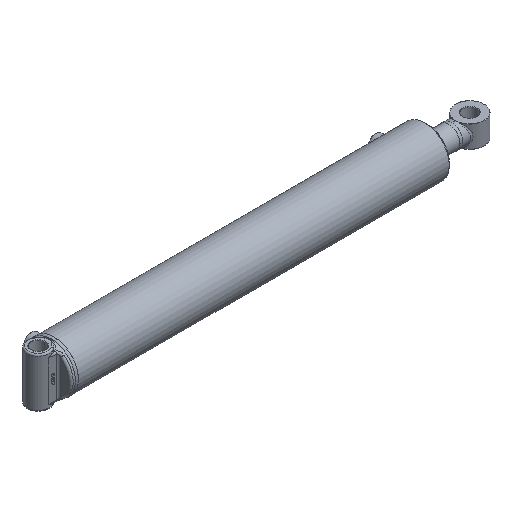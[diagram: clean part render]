
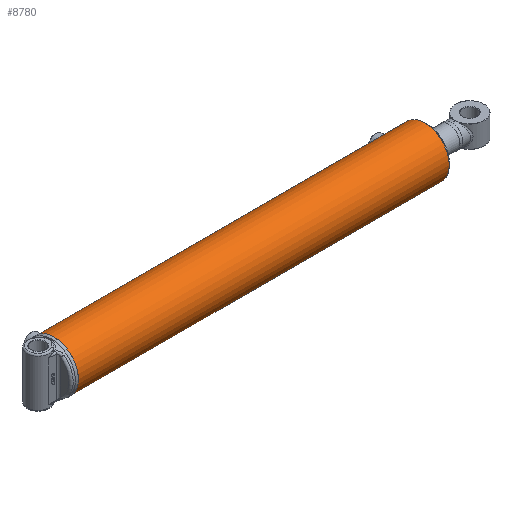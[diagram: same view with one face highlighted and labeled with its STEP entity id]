
A CAD part, isometric view. The second image highlights one B-rep face of the part: STEP entity #8780.
In plain terms, the highlighted cylindrical face has radius 56.356 mm (diameter 112.712 mm), a full revolution.
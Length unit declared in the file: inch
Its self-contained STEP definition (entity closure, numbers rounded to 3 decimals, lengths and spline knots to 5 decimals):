
#808=B_SPLINE_CURVE_WITH_KNOTS('',3,(#13133,#13134,#13135,#13136,#13137,
#13138,#13139,#13140,#13141,#13142),.UNSPECIFIED.,.F.,.F.,(4,2,2,2,4),(0.,
0.23942,0.47883,0.71824,0.95766),
 .UNSPECIFIED.);
#809=B_SPLINE_CURVE_WITH_KNOTS('',3,(#13143,#13144,#13145,#13146,#13147,
#13148,#13149,#13150,#13151,#13152,#13153,#13154,#13155,#13156,#13157,#13158,
#13159,#13160,#13161,#13162,#13163,#13164,#13165,#13166,#13167,#13168),
 .UNSPECIFIED.,.F.,.F.,(4,2,2,2,2,2,2,2,2,2,2,2,4),(0.95766,1.19707,
1.43649,1.6759,1.91532,2.15473,2.39415,
2.63356,2.87297,3.11239,3.3518,3.59122,
3.83063),.UNSPECIFIED.);
#810=B_SPLINE_CURVE_WITH_KNOTS('',3,(#13173,#13174,#13175,#13176,#13177,
#13178,#13179,#13180,#13181,#13182),.UNSPECIFIED.,.F.,.F.,(4,2,2,2,4),(0.,
0.23942,0.47883,0.71824,0.95766),
 .UNSPECIFIED.);
#811=B_SPLINE_CURVE_WITH_KNOTS('',3,(#13183,#13184,#13185,#13186,#13187,
#13188,#13189,#13190,#13191,#13192,#13193,#13194,#13195,#13196,#13197,#13198,
#13199,#13200,#13201,#13202,#13203,#13204,#13205,#13206,#13207,#13208),
 .UNSPECIFIED.,.F.,.F.,(4,2,2,2,2,2,2,2,2,2,2,2,4),(0.95766,1.19707,
1.43649,1.6759,1.91532,2.15473,2.39415,
2.63356,2.87297,3.11239,3.3518,3.59122,
3.83063),.UNSPECIFIED.);
#1096=FACE_BOUND('',#2595,.T.);
#1097=FACE_BOUND('',#2596,.T.);
#1352=LINE('',#13244,#1693);
#1693=VECTOR('',#10661,2.21875);
#2031=CYLINDRICAL_SURFACE('',#9525,2.21875);
#2119=FACE_OUTER_BOUND('',#2594,.T.);
#2594=EDGE_LOOP('',(#6139,#6140,#6141,#6142,#6143,#6144));
#2595=EDGE_LOOP('',(#6145,#6146));
#2596=EDGE_LOOP('',(#6147,#6148));
#3157=CIRCLE('',#9522,2.21875);
#3159=CIRCLE('',#9524,2.21875);
#3160=CIRCLE('',#9526,2.21875);
#3161=CIRCLE('',#9527,2.21875);
#3801=VERTEX_POINT('',#13130);
#3802=VERTEX_POINT('',#13132);
#3803=VERTEX_POINT('',#13170);
#3804=VERTEX_POINT('',#13172);
#3815=VERTEX_POINT('',#13237);
#3816=VERTEX_POINT('',#13238);
#3817=VERTEX_POINT('',#13243);
#3818=VERTEX_POINT('',#13245);
#4736=EDGE_CURVE('',#3802,#3801,#808,.T.);
#4737=EDGE_CURVE('',#3801,#3802,#809,.T.);
#4739=EDGE_CURVE('',#3804,#3803,#810,.T.);
#4740=EDGE_CURVE('',#3803,#3804,#811,.T.);
#4754=EDGE_CURVE('',#3815,#3816,#3157,.T.);
#4756=EDGE_CURVE('',#3816,#3815,#3159,.T.);
#4757=EDGE_CURVE('',#3815,#3817,#1352,.T.);
#4758=EDGE_CURVE('',#3818,#3817,#3160,.T.);
#4759=EDGE_CURVE('',#3817,#3818,#3161,.T.);
#6139=ORIENTED_EDGE('',*,*,#4754,.F.);
#6140=ORIENTED_EDGE('',*,*,#4757,.T.);
#6141=ORIENTED_EDGE('',*,*,#4758,.F.);
#6142=ORIENTED_EDGE('',*,*,#4759,.F.);
#6143=ORIENTED_EDGE('',*,*,#4757,.F.);
#6144=ORIENTED_EDGE('',*,*,#4756,.F.);
#6145=ORIENTED_EDGE('',*,*,#4736,.T.);
#6146=ORIENTED_EDGE('',*,*,#4737,.T.);
#6147=ORIENTED_EDGE('',*,*,#4739,.T.);
#6148=ORIENTED_EDGE('',*,*,#4740,.T.);
#8780=ADVANCED_FACE('',(#2119,#1096,#1097),#2031,.T.);
#9522=AXIS2_PLACEMENT_3D('',#13239,#10653,#10654);
#9524=AXIS2_PLACEMENT_3D('',#13241,#10657,#10658);
#9525=AXIS2_PLACEMENT_3D('',#13242,#10659,#10660);
#9526=AXIS2_PLACEMENT_3D('',#13246,#10662,#10663);
#9527=AXIS2_PLACEMENT_3D('',#13247,#10664,#10665);
#10653=DIRECTION('center_axis',(1.,0.,0.));
#10654=DIRECTION('ref_axis',(0.,-1.,0.));
#10657=DIRECTION('center_axis',(1.,0.,0.));
#10658=DIRECTION('ref_axis',(0.,-1.,0.));
#10659=DIRECTION('center_axis',(1.,0.,0.));
#10660=DIRECTION('ref_axis',(0.,-1.,0.));
#10661=DIRECTION('',(-1.,0.,0.));
#10662=DIRECTION('center_axis',(-1.,0.,0.));
#10663=DIRECTION('ref_axis',(0.,-1.,0.));
#10664=DIRECTION('center_axis',(-1.,0.,0.));
#10665=DIRECTION('ref_axis',(0.,-1.,0.));
#13130=CARTESIAN_POINT('',(0.75,0.,2.21875));
#13132=CARTESIAN_POINT('',(1.,-0.25,2.20462));
#13133=CARTESIAN_POINT('Ctrl Pts',(1.,-0.25,2.20462));
#13134=CARTESIAN_POINT('Ctrl Pts',(0.96858,-0.25,2.20462));
#13135=CARTESIAN_POINT('Ctrl Pts',(0.93509,-0.24372,
2.20536));
#13136=CARTESIAN_POINT('Ctrl Pts',(0.8735,-0.21819,
2.20803));
#13137=CARTESIAN_POINT('Ctrl Pts',(0.8454,-0.19896,
2.20992));
#13138=CARTESIAN_POINT('Ctrl Pts',(0.80104,-0.1546,
2.21347));
#13139=CARTESIAN_POINT('Ctrl Pts',(0.78181,-0.1265,
2.21536));
#13140=CARTESIAN_POINT('Ctrl Pts',(0.75628,-0.06491,
2.21801));
#13141=CARTESIAN_POINT('Ctrl Pts',(0.75,-0.03142,2.21875));
#13142=CARTESIAN_POINT('Ctrl Pts',(0.75,0.,2.21875));
#13143=CARTESIAN_POINT('Ctrl Pts',(0.75,0.,2.21875));
#13144=CARTESIAN_POINT('Ctrl Pts',(0.75,0.03142,2.21875));
#13145=CARTESIAN_POINT('Ctrl Pts',(0.75628,0.06491,2.21801));
#13146=CARTESIAN_POINT('Ctrl Pts',(0.78181,0.1265,
2.21536));
#13147=CARTESIAN_POINT('Ctrl Pts',(0.80104,0.1546,
2.21347));
#13148=CARTESIAN_POINT('Ctrl Pts',(0.8454,0.19896,
2.20992));
#13149=CARTESIAN_POINT('Ctrl Pts',(0.8735,0.21819,2.20803));
#13150=CARTESIAN_POINT('Ctrl Pts',(0.93509,0.24372,
2.20536));
#13151=CARTESIAN_POINT('Ctrl Pts',(0.96858,0.25,2.20462));
#13152=CARTESIAN_POINT('Ctrl Pts',(1.03142,0.25,2.20462));
#13153=CARTESIAN_POINT('Ctrl Pts',(1.06491,0.24372,2.20536));
#13154=CARTESIAN_POINT('Ctrl Pts',(1.1265,0.21819,2.20803));
#13155=CARTESIAN_POINT('Ctrl Pts',(1.1546,0.19896,2.20992));
#13156=CARTESIAN_POINT('Ctrl Pts',(1.19896,0.1546,2.21347));
#13157=CARTESIAN_POINT('Ctrl Pts',(1.21819,0.1265,2.21536));
#13158=CARTESIAN_POINT('Ctrl Pts',(1.24372,0.06491,
2.21801));
#13159=CARTESIAN_POINT('Ctrl Pts',(1.25,0.03142,2.21875));
#13160=CARTESIAN_POINT('Ctrl Pts',(1.25,-0.03142,2.21875));
#13161=CARTESIAN_POINT('Ctrl Pts',(1.24372,-0.06491,
2.21801));
#13162=CARTESIAN_POINT('Ctrl Pts',(1.21819,-0.1265,
2.21536));
#13163=CARTESIAN_POINT('Ctrl Pts',(1.19896,-0.1546,
2.21347));
#13164=CARTESIAN_POINT('Ctrl Pts',(1.1546,-0.19896,
2.20992));
#13165=CARTESIAN_POINT('Ctrl Pts',(1.1265,-0.21819,2.20803));
#13166=CARTESIAN_POINT('Ctrl Pts',(1.06491,-0.24372,2.20536));
#13167=CARTESIAN_POINT('Ctrl Pts',(1.03142,-0.25,2.20462));
#13168=CARTESIAN_POINT('Ctrl Pts',(1.,-0.25,2.20462));
#13170=CARTESIAN_POINT('',(31.87,0.,2.21875));
#13172=CARTESIAN_POINT('',(32.12,-0.25,2.20462));
#13173=CARTESIAN_POINT('Ctrl Pts',(32.12,-0.25,2.20462));
#13174=CARTESIAN_POINT('Ctrl Pts',(32.08858,-0.25,
2.20462));
#13175=CARTESIAN_POINT('Ctrl Pts',(32.05509,-0.24372,
2.20536));
#13176=CARTESIAN_POINT('Ctrl Pts',(31.9935,-0.21819,
2.20803));
#13177=CARTESIAN_POINT('Ctrl Pts',(31.9654,-0.19896,
2.20992));
#13178=CARTESIAN_POINT('Ctrl Pts',(31.92104,-0.1546,
2.21347));
#13179=CARTESIAN_POINT('Ctrl Pts',(31.90181,-0.1265,
2.21536));
#13180=CARTESIAN_POINT('Ctrl Pts',(31.87628,-0.06491,
2.21801));
#13181=CARTESIAN_POINT('Ctrl Pts',(31.87,-0.03142,2.21875));
#13182=CARTESIAN_POINT('Ctrl Pts',(31.87,0.,2.21875));
#13183=CARTESIAN_POINT('Ctrl Pts',(31.87,0.,2.21875));
#13184=CARTESIAN_POINT('Ctrl Pts',(31.87,0.03142,2.21875));
#13185=CARTESIAN_POINT('Ctrl Pts',(31.87628,0.06491,
2.21801));
#13186=CARTESIAN_POINT('Ctrl Pts',(31.90181,0.1265,2.21536));
#13187=CARTESIAN_POINT('Ctrl Pts',(31.92104,0.1546,2.21347));
#13188=CARTESIAN_POINT('Ctrl Pts',(31.9654,0.19896,2.20992));
#13189=CARTESIAN_POINT('Ctrl Pts',(31.9935,0.21819,2.20803));
#13190=CARTESIAN_POINT('Ctrl Pts',(32.05509,0.24372,2.20536));
#13191=CARTESIAN_POINT('Ctrl Pts',(32.08858,0.25,2.20462));
#13192=CARTESIAN_POINT('Ctrl Pts',(32.15142,0.25,2.20462));
#13193=CARTESIAN_POINT('Ctrl Pts',(32.18491,0.24372,2.20536));
#13194=CARTESIAN_POINT('Ctrl Pts',(32.2465,0.21819,2.20803));
#13195=CARTESIAN_POINT('Ctrl Pts',(32.2746,0.19896,2.20992));
#13196=CARTESIAN_POINT('Ctrl Pts',(32.31896,0.1546,2.21347));
#13197=CARTESIAN_POINT('Ctrl Pts',(32.33819,0.1265,2.21536));
#13198=CARTESIAN_POINT('Ctrl Pts',(32.36372,0.06491,
2.21801));
#13199=CARTESIAN_POINT('Ctrl Pts',(32.37,0.03142,2.21875));
#13200=CARTESIAN_POINT('Ctrl Pts',(32.37,-0.03142,2.21875));
#13201=CARTESIAN_POINT('Ctrl Pts',(32.36372,-0.06491,
2.21801));
#13202=CARTESIAN_POINT('Ctrl Pts',(32.33819,-0.1265,
2.21536));
#13203=CARTESIAN_POINT('Ctrl Pts',(32.31896,-0.1546,
2.21347));
#13204=CARTESIAN_POINT('Ctrl Pts',(32.2746,-0.19896,
2.20992));
#13205=CARTESIAN_POINT('Ctrl Pts',(32.2465,-0.21819,
2.20803));
#13206=CARTESIAN_POINT('Ctrl Pts',(32.18491,-0.24372,
2.20536));
#13207=CARTESIAN_POINT('Ctrl Pts',(32.15142,-0.25,
2.20462));
#13208=CARTESIAN_POINT('Ctrl Pts',(32.12,-0.25,2.20462));
#13237=CARTESIAN_POINT('',(33.61,2.21875,0.));
#13238=CARTESIAN_POINT('',(33.61,0.,-2.21875));
#13239=CARTESIAN_POINT('Origin',(33.61,0.,0.));
#13241=CARTESIAN_POINT('Origin',(33.61,0.,0.));
#13242=CARTESIAN_POINT('Origin',(0.,0.,0.));
#13243=CARTESIAN_POINT('',(0.11186,2.21875,0.));
#13244=CARTESIAN_POINT('',(0.,2.21875,0.));
#13245=CARTESIAN_POINT('',(0.11186,0.,2.21875));
#13246=CARTESIAN_POINT('Origin',(0.11186,0.,0.));
#13247=CARTESIAN_POINT('Origin',(0.11186,0.,0.));
